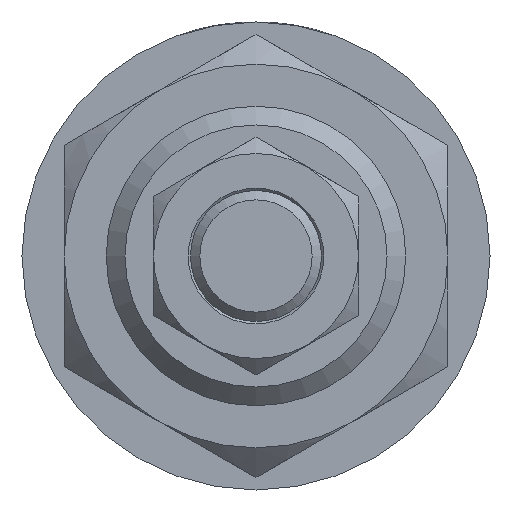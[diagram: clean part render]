
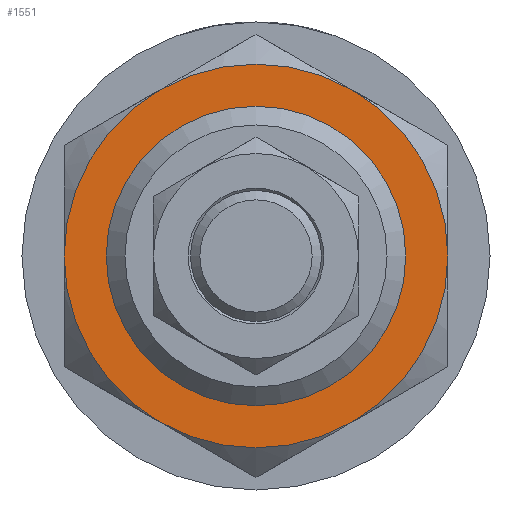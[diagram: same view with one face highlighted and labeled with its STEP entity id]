
A CAD part, front view. The second image highlights one B-rep face of the part: STEP entity #1551.
In plain terms, the highlighted planar face has unit normal (0, -1, 0).
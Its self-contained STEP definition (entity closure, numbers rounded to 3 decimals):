
#169=PLANE('',#1696);
#215=CIRCLE('',#1697,16.);
#216=CIRCLE('',#1698,20.5);
#217=CIRCLE('',#1699,20.5);
#218=CIRCLE('',#1700,20.5);
#219=CIRCLE('',#1701,20.5);
#220=CIRCLE('',#1702,20.5);
#221=CIRCLE('',#1703,20.5);
#410=ORIENTED_EDGE('',*,*,#580,.T.);
#411=ORIENTED_EDGE('',*,*,#581,.T.);
#412=ORIENTED_EDGE('',*,*,#582,.T.);
#413=ORIENTED_EDGE('',*,*,#583,.T.);
#414=ORIENTED_EDGE('',*,*,#584,.T.);
#415=ORIENTED_EDGE('',*,*,#585,.T.);
#416=ORIENTED_EDGE('',*,*,#586,.T.);
#580=EDGE_CURVE('',#682,#682,#215,.T.);
#581=EDGE_CURVE('',#659,#664,#216,.F.);
#582=EDGE_CURVE('',#664,#680,#217,.F.);
#583=EDGE_CURVE('',#680,#677,#218,.F.);
#584=EDGE_CURVE('',#677,#673,#219,.F.);
#585=EDGE_CURVE('',#673,#669,#220,.F.);
#586=EDGE_CURVE('',#669,#659,#221,.F.);
#659=VERTEX_POINT('',#2361);
#664=VERTEX_POINT('',#2382);
#669=VERTEX_POINT('',#2401);
#673=VERTEX_POINT('',#2420);
#677=VERTEX_POINT('',#2439);
#680=VERTEX_POINT('',#2456);
#682=VERTEX_POINT('',#2467);
#804=EDGE_LOOP('',(#410));
#805=EDGE_LOOP('',(#411,#412,#413,#414,#415,#416));
#922=FACE_BOUND('',#804,.T.);
#923=FACE_BOUND('',#805,.T.);
#1551=ADVANCED_FACE('',(#922,#923),#169,.F.);
#1696=AXIS2_PLACEMENT_3D('',#2465,#1966,#1967);
#1697=AXIS2_PLACEMENT_3D('',#2466,#1968,#1969);
#1698=AXIS2_PLACEMENT_3D('',#2468,#1970,#1971);
#1699=AXIS2_PLACEMENT_3D('',#2469,#1972,#1973);
#1700=AXIS2_PLACEMENT_3D('',#2470,#1974,#1975);
#1701=AXIS2_PLACEMENT_3D('',#2471,#1976,#1977);
#1702=AXIS2_PLACEMENT_3D('',#2472,#1978,#1979);
#1703=AXIS2_PLACEMENT_3D('',#2473,#1980,#1981);
#1966=DIRECTION('',(0.,1.,0.));
#1967=DIRECTION('',(0.,0.,1.));
#1968=DIRECTION('',(0.,1.,0.));
#1969=DIRECTION('',(0.,0.,1.));
#1970=DIRECTION('',(0.,1.,0.));
#1971=DIRECTION('',(0.,0.,1.));
#1972=DIRECTION('',(0.,1.,0.));
#1973=DIRECTION('',(0.,0.,1.));
#1974=DIRECTION('',(0.,1.,0.));
#1975=DIRECTION('',(0.,0.,1.));
#1976=DIRECTION('',(0.,1.,0.));
#1977=DIRECTION('',(0.,0.,1.));
#1978=DIRECTION('',(0.,1.,0.));
#1979=DIRECTION('',(0.,0.,1.));
#1980=DIRECTION('',(0.,1.,0.));
#1981=DIRECTION('',(0.,0.,1.));
#2361=CARTESIAN_POINT('',(10.25,-10.,17.754));
#2382=CARTESIAN_POINT('',(-10.25,-10.,17.754));
#2401=CARTESIAN_POINT('',(20.5,-10.,0.));
#2420=CARTESIAN_POINT('',(10.25,-10.,-17.754));
#2439=CARTESIAN_POINT('',(-10.25,-10.,-17.754));
#2456=CARTESIAN_POINT('',(-20.5,-10.,0.));
#2465=CARTESIAN_POINT('',(0.,-10.,0.));
#2466=CARTESIAN_POINT('',(0.,-10.,0.));
#2467=CARTESIAN_POINT('',(0.,-10.,16.));
#2468=CARTESIAN_POINT('',(0.,-10.,0.));
#2469=CARTESIAN_POINT('',(0.,-10.,0.));
#2470=CARTESIAN_POINT('',(0.,-10.,0.));
#2471=CARTESIAN_POINT('',(0.,-10.,0.));
#2472=CARTESIAN_POINT('',(0.,-10.,0.));
#2473=CARTESIAN_POINT('',(0.,-10.,0.));
